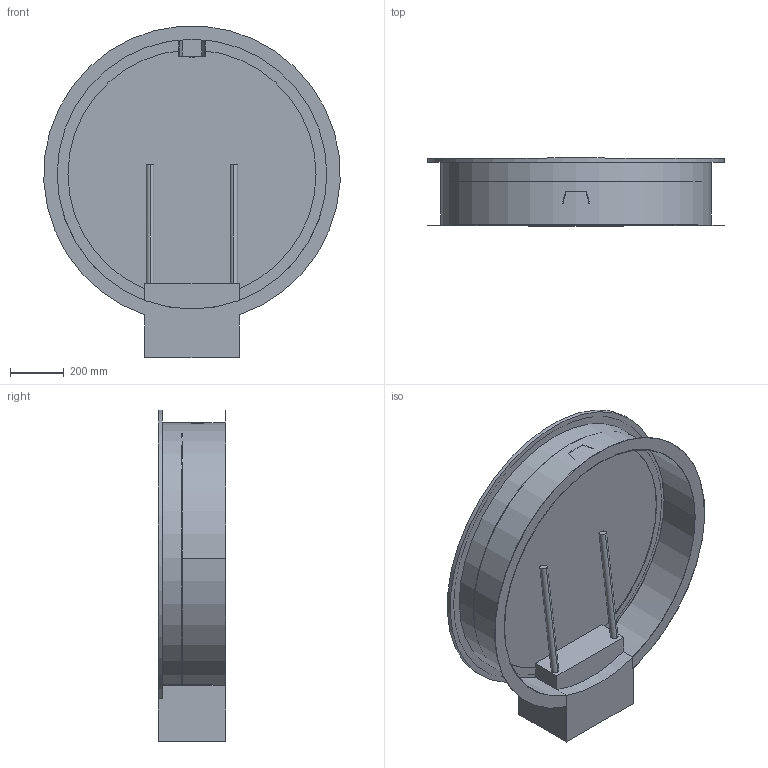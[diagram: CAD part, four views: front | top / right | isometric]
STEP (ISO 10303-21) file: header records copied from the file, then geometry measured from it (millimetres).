
FILE_DESCRIPTION((''),'2;1');
FILE_NAME('51526202','2020-09-21T14:50:00',('wj'),('HUBER SE'),'CREO PARAMETRIC BY PTC INC, 2019224','CREO PARAMETRIC BY PTC INC, 2019224','');
FILE_SCHEMA(('AUTOMOTIVE_DESIGN { 1 0 10303 214 1 1 1 1 }'));
Length unit declared in the file: millimetre
Products named in the file (1): 51526202
Bounding box: 1098.54 x 250 x 1228.51 mm (x, y, z)
Volume: 88257997.9 mm3; surface area: 4534820.8 mm2
Topology: 1 solids, 1 shells, 57 faces, 138 edges, 92 vertices
Faces by surface type: plane 33, cylinder 24
Entity records: 2349 total; most frequent: CARTESIAN_POINT 381, DIRECTION 294, ORIENTED_EDGE 276, EDGE_CURVE 138, AXIS2_PLACEMENT_3D 109, COLOUR_RGB 106, VERTEX_POINT 92, VECTOR 76
